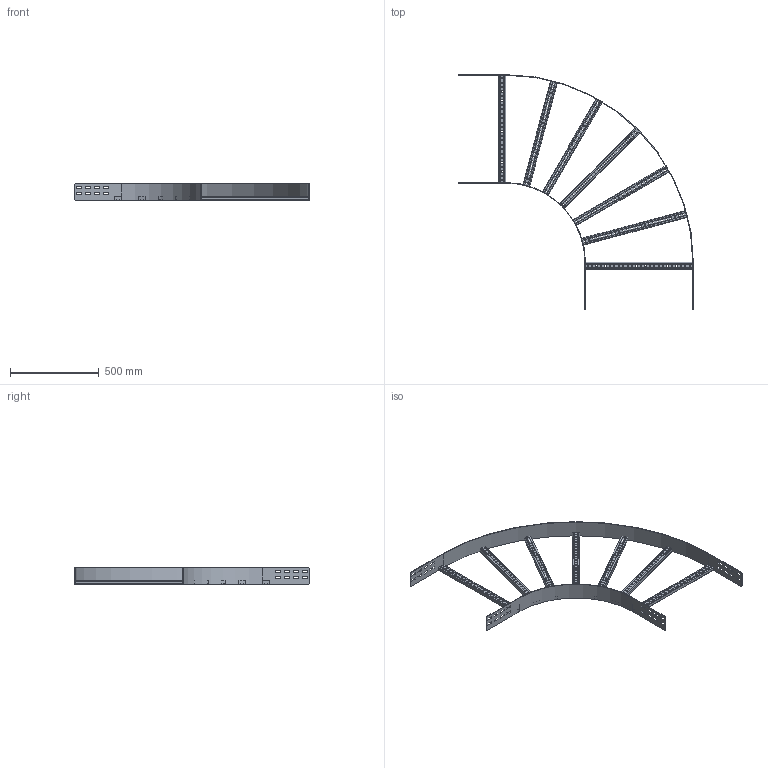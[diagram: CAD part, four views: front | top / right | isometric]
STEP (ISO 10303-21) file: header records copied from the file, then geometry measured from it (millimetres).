
FILE_DESCRIPTION(('Creo Elements/Direct Modeling STEP Export'),'2;1');
FILE_NAME('WPHB10-60-90-45.stp','2016-05-13T13:43:57',(''),(''),'PTC Creo Elements/Direct Modeling STEP processor for AP214 (Solid Model)','PTC Creo Elements/Direct Modeling 19.0C 15-Aug-2015 (C) Parametric Technology GmbH','');
FILE_SCHEMA(('AUTOMOTIVE_DESIGN { 1 0 10303 214 1 1 1 1 }'));
Length unit declared in the file: millimetre
Products named in the file (4): WPBA_100-60; WPHBS60; WPBI_100; WPHB10-60-90-45
Assembly tree (9 placements, depth 2):
  WPHB10-60-90-45
    WPHBS60  x7
    WPBI_100
    WPBA_100-60
Bounding box: 1323 x 1323 x 95 mm (x, y, z)
Volume: 1560454 mm3; surface area: 1506993.4 mm2
Topology: 9 solids, 9 shells, 1108 faces, 3270 edges, 2180 vertices
Faces by surface type: plane 642, cylinder 466
Entity records: 10014 total; most frequent: CARTESIAN_POINT 1731, ORIENTED_EDGE 1716, DIRECTION 1600, EDGE_CURVE 858, VECTOR 718, LINE 718, VERTEX_POINT 572, AXIS2_PLACEMENT_3D 441
